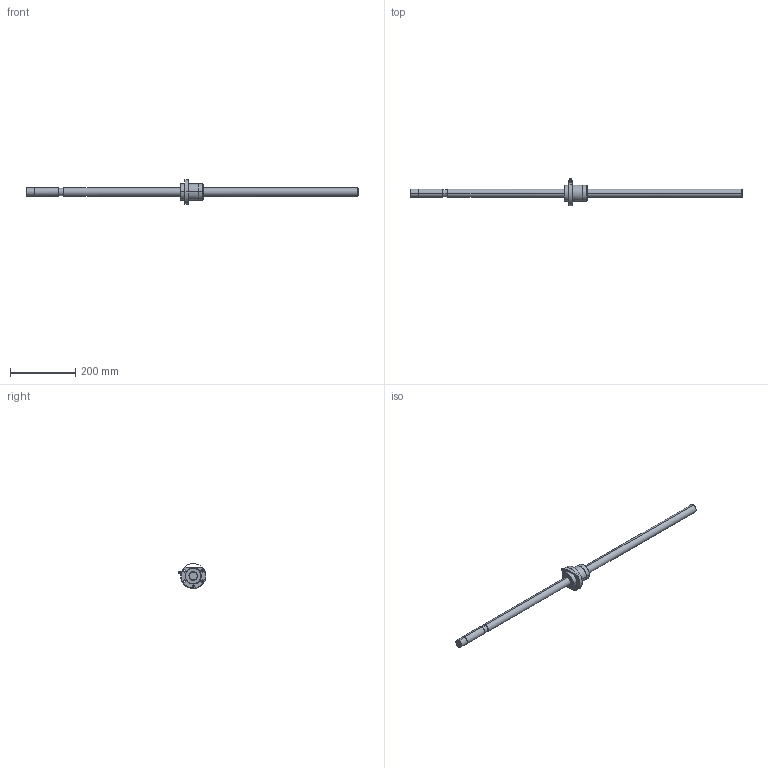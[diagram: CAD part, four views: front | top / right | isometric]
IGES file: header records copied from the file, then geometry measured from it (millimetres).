
Global section: file name: No Iges File Name specified; native system: AutoDesk Inventor R10; preprocessor: AutoDesk Inventor Iges Exporter R10; author: No Author specified; organization: No Organization specified; date: 20101224.134440; units: millimetre
Bounding box: 1015 x 83.6 x 76 mm (x, y, z)
Surface area: 108097 mm2 (no closed solid volume)
Topology: 0 solids, 0 shells, 74 faces, 486 edges, 482 vertices
Faces by surface type: bspline 74
